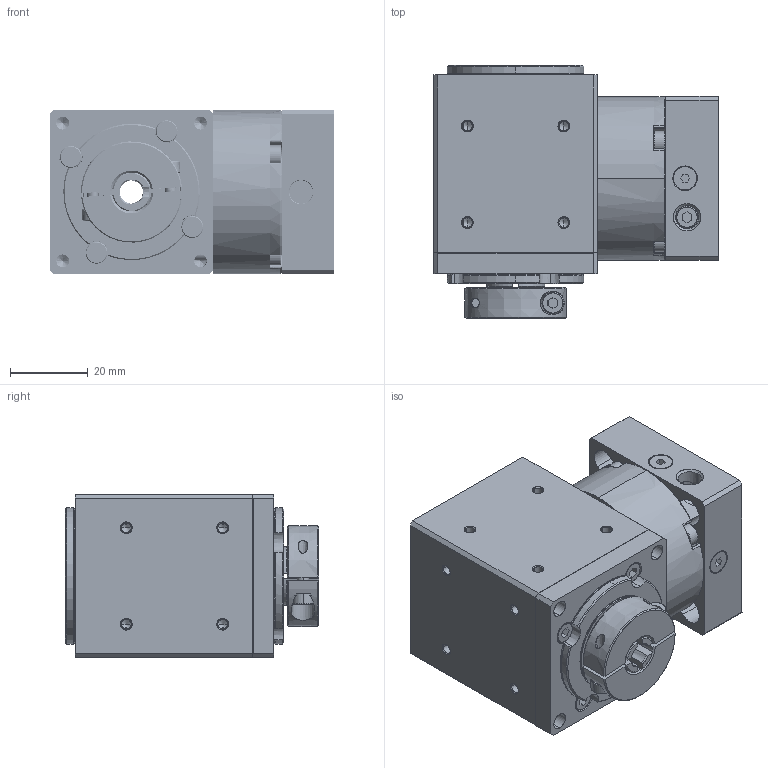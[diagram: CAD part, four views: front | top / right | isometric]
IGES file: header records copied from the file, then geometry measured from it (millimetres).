
Start section: SolidWorks IGES file using analytic representation for surfaces
Global section: file name: C:\Users\render\Documents\CAD Files\R-Gearboxes\RLHS\RLHS-042-005\RLHS-042-00X.IGS; native system: SolidWorks 2011; preprocessor: SolidWorks 2011; author: render; date: 120227.120718; units: millimetre
Bounding box: 73 x 65 x 42 mm (x, y, z)
Surface area: 66964.9 mm2 (no closed solid volume)
Topology: 0 solids, 0 shells, 1407 faces, 21106 edges, 21033 vertices
Faces by surface type: revolution 862, bspline 545
